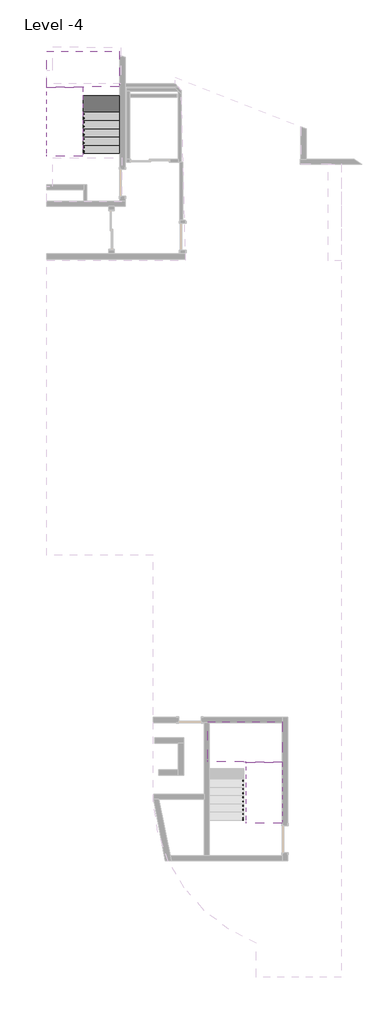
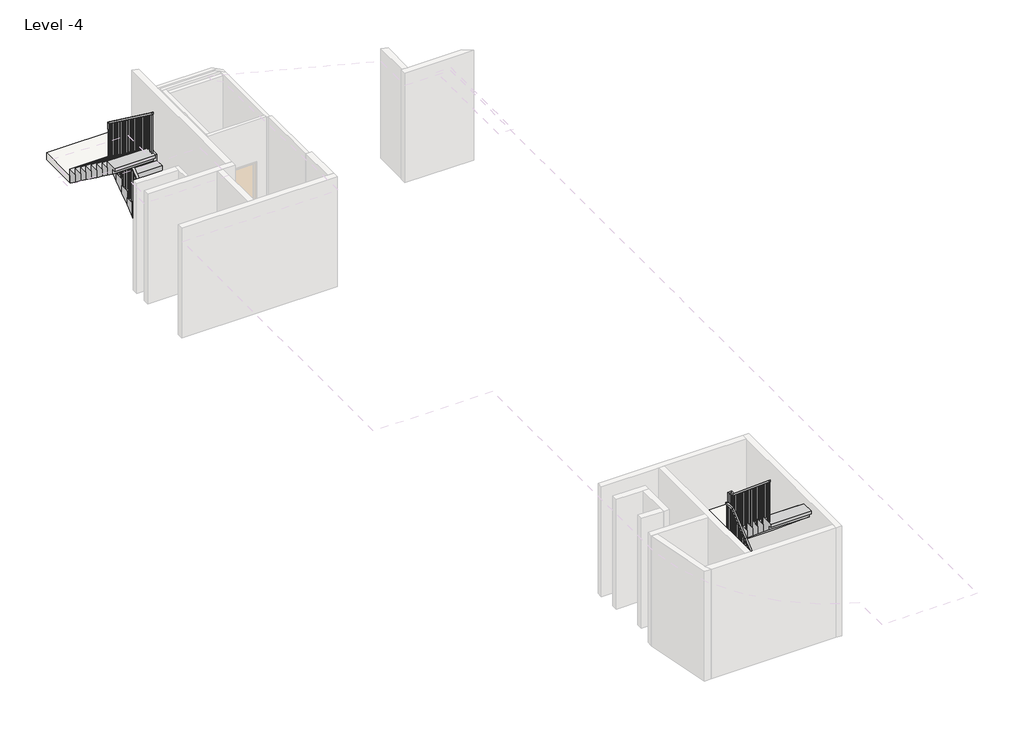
# One storey, part 2 of 2: 3 stair flights, 2 railings, 2 slabs.
"""IFC4 building model written with IfcOpenShell, lengths in millimetres."""

from ifc_helpers import new_model, si_unit, frame, origin, place, context, project, spatial, polyline, outline, extrude, faceted_brep, element, save

model = new_model("IFC4")

# Units and contexts
model_context = context("Model", 3, world=origin())
ifc_project = project(units=[si_unit("LENGTHUNIT", "METRE", prefix="MILLI")], contexts=[model_context])

# Site, building, storey
site = spatial("IfcSite", under=ifc_project)
building = spatial("IfcBuilding", under=site)
storey = spatial("IfcBuildingStorey", under=building, Name="Level -4", Elevation=-14000.0)

# Railings
placement = place(None, origin())
element("IfcRailing", 1, ObjectType="1100mm", at=placement, inside=storey, context=model_context, shape_type="SolidModel", body=[
    faceted_brep([(1179.9765888, 10328.8506586, -12694.1176471), (1179.9765888, 10328.8506586, -12756.1792584), (1229.9765888, 10328.8506586, -12756.1792584), (1229.9765888, 10328.8506586, -12694.1176471), (1179.9765888, 12288.8506586, -11252.9411765), (1179.9765888, 12305.25445, -11302.9411765), (1229.9765888, 12305.25445, -11302.9411765), (1229.9765888, 12288.8506586, -11252.9411765), (1179.9765888, 12569.2506586, -11252.9411765), (1179.9765888, 12569.2506586, -11302.9411765), (1229.9765888, 12619.2506586, -11302.9411765), (1229.9765888, 12619.2506586, -11252.9411765), (1159.5709975, 12569.2506586, -11252.9411765), (1159.5709975, 12619.2506586, -11252.9411765), (1109.5709975, 12619.2506586, -11302.9411765), (1109.5709975, 12569.2506586, -11302.9411765)], [[[0, 1, 2, 3]], [[1, 0, 4, 5]], [[2, 1, 5, 6]], [[3, 2, 6, 7]], [[0, 3, 7, 4]], [[5, 4, 8, 9]], [[6, 5, 9, 10]], [[7, 6, 10, 11]], [[4, 7, 11, 8]], [[12, 13, 14, 15]], [[9, 8, 12, 15]], [[10, 9, 15, 14]], [[11, 10, 14, 13]], [[8, 11, 13, 12]]]),
    faceted_brep([(1159.5709975, 12569.2506586, -11252.9411765), (1109.5709975, 12569.2506586, -11302.9411765), (1109.5709975, 12619.2506586, -11302.9411765), (1159.5709975, 12619.2506586, -11252.9411765), (1159.5709975, 12569.2506586, -11109.4145525), (1159.5709975, 12619.2506586, -11084.1176471), (1109.5709975, 12619.2506586, -11084.1176471), (1109.5709975, 12569.2506586, -11109.4145525)], [[[0, 1, 2, 3]], [[4, 5, 6, 7]], [[1, 0, 4, 7]], [[2, 1, 7, 6]], [[3, 2, 6, 5]], [[0, 3, 5, 4]]]),
    faceted_brep([(1159.5709975, 12619.2506586, -11084.1176471), (1159.5709975, 12569.2506586, -11109.4145525), (1109.5709975, 12569.2506586, -11109.4145525), (1109.5709975, 12619.2506586, -11084.1176471), (1159.5709975, 10328.8506586, -9400.0), (1109.5709975, 10328.8506586, -9400.0), (1109.5709975, 10328.8506586, -9462.0616113), (1159.5709975, 10328.8506586, -9462.0616113)], [[[0, 1, 2, 3]], [[4, 5, 6, 7]], [[1, 0, 4, 7]], [[2, 1, 7, 6]], [[3, 2, 6, 5]], [[0, 3, 5, 4]]]),
    extrude(outline(polyline([(10436.7506586, -10705.8823529), (10411.7506586, -10705.8823529), (10411.7506586, -9523.0174937), (10436.7506586, -9541.3998466), (10436.7506586, -10705.8823529)])), frame((1122.0709975, 0.0, 0.0), z_axis=(1.0, 0.0, 0.0), x_axis=(0.0, 1.0, 0.0)), (0.0, 0.0, 1.0), 25.0),
    extrude(outline(polyline([(10576.7506586, -10705.8823529), (10551.7506586, -10705.8823529), (10551.7506586, -9625.9586701), (10576.7506586, -9644.3410231), (10576.7506586, -10705.8823529)])), frame((1122.0709975, 0.0, 0.0), z_axis=(1.0, 0.0, 0.0), x_axis=(0.0, 1.0, 0.0)), (0.0, 0.0, 1.0), 25.0),
    extrude(outline(polyline([(10716.7506586, -10911.7647059), (10691.7506586, -10911.7647059), (10691.7506586, -9728.8998466), (10716.7506586, -9747.2821995), (10716.7506586, -10911.7647059)])), frame((1122.0709975, 0.0, 0.0), z_axis=(1.0, 0.0, 0.0), x_axis=(0.0, 1.0, 0.0)), (0.0, 0.0, 1.0), 25.0),
    extrude(outline(polyline([(10856.7506586, -10911.7647059), (10831.7506586, -10911.7647059), (10831.7506586, -9831.8410231), (10856.7506586, -9850.223376), (10856.7506586, -10911.7647059)])), frame((1122.0709975, 0.0, 0.0), z_axis=(1.0, 0.0, 0.0), x_axis=(0.0, 1.0, 0.0)), (0.0, 0.0, 1.0), 25.0),
    extrude(outline(polyline([(10996.7506586, -11117.6470588), (10971.7506586, -11117.6470588), (10971.7506586, -9934.7821995), (10996.7506586, -9953.1645525), (10996.7506586, -11117.6470588)])), frame((1122.0709975, 0.0, 0.0), z_axis=(1.0, 0.0, 0.0), x_axis=(0.0, 1.0, 0.0)), (0.0, 0.0, 1.0), 25.0),
    extrude(outline(polyline([(11136.7506586, -11117.6470588), (11111.7506586, -11117.6470588), (11111.7506586, -10037.723376), (11136.7506586, -10056.105729), (11136.7506586, -11117.6470588)])), frame((1122.0709975, 0.0, 0.0), z_axis=(1.0, 0.0, 0.0), x_axis=(0.0, 1.0, 0.0)), (0.0, 0.0, 1.0), 25.0),
    extrude(outline(polyline([(11276.7506586, -11323.5294118), (11251.7506586, -11323.5294118), (11251.7506586, -10140.6645525), (11276.7506586, -10159.0469054), (11276.7506586, -11323.5294118)])), frame((1122.0709975, 0.0, 0.0), z_axis=(1.0, 0.0, 0.0), x_axis=(0.0, 1.0, 0.0)), (0.0, 0.0, 1.0), 25.0),
    extrude(outline(polyline([(11416.7506586, -11323.5294118), (11391.7506586, -11323.5294118), (11391.7506586, -10243.605729), (11416.7506586, -10261.9880819), (11416.7506586, -11323.5294118)])), frame((1122.0709975, 0.0, 0.0), z_axis=(1.0, 0.0, 0.0), x_axis=(0.0, 1.0, 0.0)), (0.0, 0.0, 1.0), 25.0),
    extrude(outline(polyline([(11556.7506586, -11529.4117647), (11531.7506586, -11529.4117647), (11531.7506586, -10346.5469054), (11556.7506586, -10364.9292584), (11556.7506586, -11529.4117647)])), frame((1122.0709975, 0.0, 0.0), z_axis=(1.0, 0.0, 0.0), x_axis=(0.0, 1.0, 0.0)), (0.0, 0.0, 1.0), 25.0),
    extrude(outline(polyline([(11696.7506586, -11529.4117647), (11671.7506586, -11529.4117647), (11671.7506586, -10449.4880819), (11696.7506586, -10467.8704348), (11696.7506586, -11529.4117647)])), frame((1122.0709975, 0.0, 0.0), z_axis=(1.0, 0.0, 0.0), x_axis=(0.0, 1.0, 0.0)), (0.0, 0.0, 1.0), 25.0),
    extrude(outline(polyline([(11836.7506586, -11735.2941176), (11811.7506586, -11735.2941176), (11811.7506586, -10552.4292584), (11836.7506586, -10570.8116113), (11836.7506586, -11735.2941176)])), frame((1122.0709975, 0.0, 0.0), z_axis=(1.0, 0.0, 0.0), x_axis=(0.0, 1.0, 0.0)), (0.0, 0.0, 1.0), 25.0),
    extrude(outline(polyline([(11976.7506586, -11735.2941176), (11951.7506586, -11735.2941176), (11951.7506586, -10655.3704348), (11976.7506586, -10673.7527878), (11976.7506586, -11735.2941176)])), frame((1122.0709975, 0.0, 0.0), z_axis=(1.0, 0.0, 0.0), x_axis=(0.0, 1.0, 0.0)), (0.0, 0.0, 1.0), 25.0),
    extrude(outline(polyline([(12116.7506586, -11941.1764706), (12091.7506586, -11941.1764706), (12091.7506586, -10758.3116113), (12116.7506586, -10776.6939643), (12116.7506586, -11941.1764706)])), frame((1122.0709975, 0.0, 0.0), z_axis=(1.0, 0.0, 0.0), x_axis=(0.0, 1.0, 0.0)), (0.0, 0.0, 1.0), 25.0),
    extrude(outline(polyline([(12256.7506586, -11941.1764706), (12231.7506586, -11941.1764706), (12231.7506586, -10861.2527878), (12256.7506586, -10879.6351407), (12256.7506586, -11941.1764706)])), frame((1122.0709975, 0.0, 0.0), z_axis=(1.0, 0.0, 0.0), x_axis=(0.0, 1.0, 0.0)), (0.0, 0.0, 1.0), 25.0),
    extrude(outline(polyline([(12396.7506586, -12147.0588235), (12371.7506586, -12147.0588235), (12371.7506586, -10964.1939643), (12396.7506586, -10982.5763172), (12396.7506586, -12147.0588235)])), frame((1122.0709975, 0.0, 0.0), z_axis=(1.0, 0.0, 0.0), x_axis=(0.0, 1.0, 0.0)), (0.0, 0.0, 1.0), 25.0),
    extrude(outline(polyline([(12536.7506586, -12147.0588235), (12511.7506586, -12147.0588235), (12511.7506586, -11067.1351407), (12536.7506586, -11085.5174937), (12536.7506586, -12147.0588235)])), frame((1122.0709975, 0.0, 0.0), z_axis=(1.0, 0.0, 0.0), x_axis=(0.0, 1.0, 0.0)), (0.0, 0.0, 1.0), 25.0),
    extrude(outline(polyline([(1147.4765888, 12581.7506586), (1122.4765888, 12581.7506586), (1122.4765888, 12606.7506586), (1147.4765888, 12606.7506586), (1147.4765888, 12581.7506586)])), frame((0.0, 0.0, -12352.9411765), z_axis=(0.0, 0.0, 1.0), x_axis=(1.0, 0.0, 0.0)), (0.0, 0.0, 1.0), 1050.0),
    extrude(outline(polyline([(1192.4765888, 12486.3506586), (1192.4765888, 12511.3506586), (1217.4765888, 12511.3506586), (1217.4765888, 12486.3506586), (1192.4765888, 12486.3506586)])), frame((0.0, 0.0, -12352.9411765), z_axis=(0.0, 0.0, 1.0), x_axis=(1.0, 0.0, 0.0)), (0.0, 0.0, 1.0), 1050.0),
    extrude(outline(polyline([(1192.4765888, 12346.3506586), (1192.4765888, 12371.3506586), (1217.4765888, 12371.3506586), (1217.4765888, 12346.3506586), (1192.4765888, 12346.3506586)])), frame((0.0, 0.0, -12352.9411765), z_axis=(0.0, 0.0, 1.0), x_axis=(1.0, 0.0, 0.0)), (0.0, 0.0, 1.0), 1050.0),
    extrude(outline(polyline([(12206.3506586, -11375.6645525), (12231.3506586, -11357.2821995), (12231.3506586, -12558.8235294), (12206.3506586, -12558.8235294), (12206.3506586, -11375.6645525)])), frame((1192.4765888, 0.0, 0.0), z_axis=(1.0, 0.0, 0.0), x_axis=(0.0, 1.0, 0.0)), (0.0, 0.0, 1.0), 25.0),
    extrude(outline(polyline([(12066.3506586, -11478.605729), (12091.3506586, -11460.223376), (12091.3506586, -12558.8235294), (12066.3506586, -12558.8235294), (12066.3506586, -11478.605729)])), frame((1192.4765888, 0.0, 0.0), z_axis=(1.0, 0.0, 0.0), x_axis=(0.0, 1.0, 0.0)), (0.0, 0.0, 1.0), 25.0),
    extrude(outline(polyline([(11926.3506586, -11581.5469054), (11951.3506586, -11563.1645525), (11951.3506586, -12764.7058824), (11926.3506586, -12764.7058824), (11926.3506586, -11581.5469054)])), frame((1192.4765888, 0.0, 0.0), z_axis=(1.0, 0.0, 0.0), x_axis=(0.0, 1.0, 0.0)), (0.0, 0.0, 1.0), 25.0),
    extrude(outline(polyline([(11786.3506586, -11684.4880819), (11811.3506586, -11666.105729), (11811.3506586, -12764.7058824), (11786.3506586, -12764.7058824), (11786.3506586, -11684.4880819)])), frame((1192.4765888, 0.0, 0.0), z_axis=(1.0, 0.0, 0.0), x_axis=(0.0, 1.0, 0.0)), (0.0, 0.0, 1.0), 25.0),
    extrude(outline(polyline([(11646.3506586, -11787.4292584), (11671.3506586, -11769.0469054), (11671.3506586, -12970.5882353), (11646.3506586, -12970.5882353), (11646.3506586, -11787.4292584)])), frame((1192.4765888, 0.0, 0.0), z_axis=(1.0, 0.0, 0.0), x_axis=(0.0, 1.0, 0.0)), (0.0, 0.0, 1.0), 25.0),
    extrude(outline(polyline([(11506.3506586, -11890.3704348), (11531.3506586, -11871.9880819), (11531.3506586, -12970.5882353), (11506.3506586, -12970.5882353), (11506.3506586, -11890.3704348)])), frame((1192.4765888, 0.0, 0.0), z_axis=(1.0, 0.0, 0.0), x_axis=(0.0, 1.0, 0.0)), (0.0, 0.0, 1.0), 25.0),
    extrude(outline(polyline([(11366.3506586, -11993.3116113), (11391.3506586, -11974.9292584), (11391.3506586, -13176.4705882), (11366.3506586, -13176.4705882), (11366.3506586, -11993.3116113)])), frame((1192.4765888, 0.0, 0.0), z_axis=(1.0, 0.0, 0.0), x_axis=(0.0, 1.0, 0.0)), (0.0, 0.0, 1.0), 25.0),
    extrude(outline(polyline([(11226.3506586, -12096.2527878), (11251.3506586, -12077.8704348), (11251.3506586, -13176.4705882), (11226.3506586, -13176.4705882), (11226.3506586, -12096.2527878)])), frame((1192.4765888, 0.0, 0.0), z_axis=(1.0, 0.0, 0.0), x_axis=(0.0, 1.0, 0.0)), (0.0, 0.0, 1.0), 25.0),
    extrude(outline(polyline([(11086.3506586, -12199.1939643), (11111.3506586, -12180.8116113), (11111.3506586, -13382.3529412), (11086.3506586, -13382.3529412), (11086.3506586, -12199.1939643)])), frame((1192.4765888, 0.0, 0.0), z_axis=(1.0, 0.0, 0.0), x_axis=(0.0, 1.0, 0.0)), (0.0, 0.0, 1.0), 25.0),
    extrude(outline(polyline([(10946.3506586, -12302.1351407), (10971.3506586, -12283.7527878), (10971.3506586, -13382.3529412), (10946.3506586, -13382.3529412), (10946.3506586, -12302.1351407)])), frame((1192.4765888, 0.0, 0.0), z_axis=(1.0, 0.0, 0.0), x_axis=(0.0, 1.0, 0.0)), (0.0, 0.0, 1.0), 25.0),
    extrude(outline(polyline([(10806.3506586, -12405.0763172), (10831.3506586, -12386.6939643), (10831.3506586, -13588.2352941), (10806.3506586, -13588.2352941), (10806.3506586, -12405.0763172)])), frame((1192.4765888, 0.0, 0.0), z_axis=(1.0, 0.0, 0.0), x_axis=(0.0, 1.0, 0.0)), (0.0, 0.0, 1.0), 25.0),
    extrude(outline(polyline([(10666.3506586, -12508.0174937), (10691.3506586, -12489.6351407), (10691.3506586, -13588.2352941), (10666.3506586, -13588.2352941), (10666.3506586, -12508.0174937)])), frame((1192.4765888, 0.0, 0.0), z_axis=(1.0, 0.0, 0.0), x_axis=(0.0, 1.0, 0.0)), (0.0, 0.0, 1.0), 25.0),
    extrude(outline(polyline([(10526.3506586, -12610.9586701), (10551.3506586, -12592.5763172), (10551.3506586, -13794.1176471), (10526.3506586, -13794.1176471), (10526.3506586, -12610.9586701)])), frame((1192.4765888, 0.0, 0.0), z_axis=(1.0, 0.0, 0.0), x_axis=(0.0, 1.0, 0.0)), (0.0, 0.0, 1.0), 25.0),
    extrude(outline(polyline([(10386.3506586, -12713.8998466), (10411.3506586, -12695.5174937), (10411.3506586, -13794.1176471), (10386.3506586, -13794.1176471), (10386.3506586, -12713.8998466)])), frame((1192.4765888, 0.0, 0.0), z_axis=(1.0, 0.0, 0.0), x_axis=(0.0, 1.0, 0.0)), (0.0, 0.0, 1.0), 25.0),
    extrude(outline(polyline([(1147.0709975, 12606.7506586), (1147.0709975, 12581.7506586), (1122.0709975, 12581.7506586), (1122.0709975, 12606.7506586), (1147.0709975, 12606.7506586)])), frame((0.0, 0.0, -12352.9411765), z_axis=(0.0, 0.0, 1.0), x_axis=(1.0, 0.0, 0.0)), (0.0, 0.0, 1.0), 1050.0),
    extrude(outline(polyline([(1192.4765888, 12581.7506586), (1192.4765888, 12606.7506586), (1217.4765888, 12606.7506586), (1217.4765888, 12581.7506586), (1192.4765888, 12581.7506586)])), frame((0.0, 0.0, -12352.9411765), z_axis=(0.0, 0.0, 1.0), x_axis=(1.0, 0.0, 0.0)), (0.0, 0.0, 1.0), 1050.0),
    extrude(outline(polyline([(12276.3506586, -11324.1939643), (12301.3506586, -11305.8116113), (12301.3506586, -12352.9411765), (12276.3506586, -12352.9411765), (12276.3506586, -11324.1939643)])), frame((1192.4765888, 0.0, 0.0), z_axis=(1.0, 0.0, 0.0), x_axis=(0.0, 1.0, 0.0)), (0.0, 0.0, 1.0), 25.0),
    extrude(outline(polyline([(10353.8506586, -10705.8823529), (10328.8506586, -10705.8823529), (10328.8506586, -9462.0616113), (10353.8506586, -9480.4439643), (10353.8506586, -10705.8823529)])), frame((1122.0709975, 0.0, 0.0), z_axis=(1.0, 0.0, 0.0), x_axis=(0.0, 1.0, 0.0)), (0.0, 0.0, 1.0), 25.0),
    extrude(outline(polyline([(10328.8506586, -12756.1792584), (10353.8506586, -12737.7969054), (10353.8506586, -13794.1176471), (10328.8506586, -13794.1176471), (10328.8506586, -12756.1792584)])), frame((1192.4765888, 0.0, 0.0), z_axis=(1.0, 0.0, 0.0), x_axis=(0.0, 1.0, 0.0)), (0.0, 0.0, 1.0), 25.0),
])
element("IfcRailing", 2, ObjectType="1100mm", at=placement, inside=storey, context=model_context, shape_type="SolidModel", body=[
    faceted_brep([(6559.5709976, -12235.6929429, -12666.6666667), (6559.5709976, -12235.6929429, -12731.7520806), (6609.5709976, -12235.6929429, -12731.7520806), (6609.5709976, -12235.6929429, -12666.6666667), (6559.5709976, -10555.6929429, -11266.6666667), (6559.5709976, -10537.5904462, -11316.6666667), (6609.5709976, -10537.5904462, -11316.6666667), (6609.5709976, -10555.6929429, -11266.6666667), (6559.5709976, -10225.2929429, -11266.6666667), (6559.5709976, -10225.2929429, -11316.6666667), (6609.5709976, -10275.2929429, -11316.6666667), (6609.5709976, -10275.2929429, -11266.6666667), (6615.3709976, -10225.2929429, -11266.6666667), (6665.3709976, -10225.2929429, -11316.6666667), (6665.3709976, -10275.2929429, -11316.6666667), (6615.3709976, -10275.2929429, -11266.6666667), (6615.3709976, -10225.2929429, -10971.1666667), (6665.3709976, -10225.2929429, -11021.1666667), (6665.3709976, -10275.2929429, -11021.1666667), (6615.3709976, -10275.2929429, -10971.1666667), (6740.3709976, -10225.2929429, -10971.1666667), (6740.3709976, -10225.2929429, -11021.1666667), (6690.3709976, -10275.2929429, -11021.1666667), (6690.3709976, -10275.2929429, -10971.1666667), (6740.3709976, -10350.2929429, -10971.1666667), (6740.3709976, -10368.3954397, -11021.1666667), (6690.3709976, -10368.3954397, -11021.1666667), (6690.3709976, -10350.2929429, -10971.1666667), (6740.3709976, -12235.6929429, -9400.0), (6690.3709976, -12235.6929429, -9400.0), (6690.3709976, -12235.6929429, -9465.085414), (6740.3709976, -12235.6929429, -9465.085414)], [[[0, 1, 2, 3]], [[1, 0, 4, 5]], [[2, 1, 5, 6]], [[3, 2, 6, 7]], [[0, 3, 7, 4]], [[5, 4, 8, 9]], [[6, 5, 9, 10]], [[7, 6, 10, 11]], [[4, 7, 11, 8]], [[9, 8, 12, 13]], [[10, 9, 13, 14]], [[11, 10, 14, 15]], [[8, 11, 15, 12]], [[13, 12, 16, 17]], [[14, 13, 17, 18]], [[15, 14, 18, 19]], [[12, 15, 19, 16]], [[17, 16, 20, 21]], [[18, 17, 21, 22]], [[19, 18, 22, 23]], [[16, 19, 23, 20]], [[21, 20, 24, 25]], [[22, 21, 25, 26]], [[23, 22, 26, 27]], [[20, 23, 27, 24]], [[28, 29, 30, 31]], [[25, 24, 28, 31]], [[26, 25, 31, 30]], [[27, 26, 30, 29]], [[24, 27, 29, 28]]]),
    extrude(outline(polyline([(-12127.7929429, -9555.0020806), (-12127.7929429, -10733.3333333), (-12152.7929429, -10733.3333333), (-12152.7929429, -9534.1687473), (-12127.7929429, -9555.0020806)])), frame((6702.8709976, 0.0, 0.0), z_axis=(1.0, 0.0, 0.0), x_axis=(0.0, 1.0, 0.0)), (0.0, 0.0, 1.0), 25.0),
    extrude(outline(polyline([(-11987.7929429, -9671.6687473), (-11987.7929429, -10733.3333333), (-12012.7929429, -10733.3333333), (-12012.7929429, -9650.835414), (-11987.7929429, -9671.6687473)])), frame((6702.8709976, 0.0, 0.0), z_axis=(1.0, 0.0, 0.0), x_axis=(0.0, 1.0, 0.0)), (0.0, 0.0, 1.0), 25.0),
    extrude(outline(polyline([(-11847.7929429, -9788.335414), (-11847.7929429, -10966.6666667), (-11872.7929429, -10966.6666667), (-11872.7929429, -9767.5020806), (-11847.7929429, -9788.335414)])), frame((6702.8709976, 0.0, 0.0), z_axis=(1.0, 0.0, 0.0), x_axis=(0.0, 1.0, 0.0)), (0.0, 0.0, 1.0), 25.0),
    extrude(outline(polyline([(-11707.7929429, -9905.0020806), (-11707.7929429, -10966.6666667), (-11732.7929429, -10966.6666667), (-11732.7929429, -9884.1687473), (-11707.7929429, -9905.0020806)])), frame((6702.8709976, 0.0, 0.0), z_axis=(1.0, 0.0, 0.0), x_axis=(0.0, 1.0, 0.0)), (0.0, 0.0, 1.0), 25.0),
    extrude(outline(polyline([(-11567.7929429, -10021.6687473), (-11567.7929429, -11200.0), (-11592.7929429, -11200.0), (-11592.7929429, -10000.835414), (-11567.7929429, -10021.6687473)])), frame((6702.8709976, 0.0, 0.0), z_axis=(1.0, 0.0, 0.0), x_axis=(0.0, 1.0, 0.0)), (0.0, 0.0, 1.0), 25.0),
    extrude(outline(polyline([(-11427.7929429, -10138.335414), (-11427.7929429, -11200.0), (-11452.7929429, -11200.0), (-11452.7929429, -10117.5020806), (-11427.7929429, -10138.335414)])), frame((6702.8709976, 0.0, 0.0), z_axis=(1.0, 0.0, 0.0), x_axis=(0.0, 1.0, 0.0)), (0.0, 0.0, 1.0), 25.0),
    extrude(outline(polyline([(-11287.7929429, -10255.0020806), (-11287.7929429, -11433.3333333), (-11312.7929429, -11433.3333333), (-11312.7929429, -10234.1687473), (-11287.7929429, -10255.0020806)])), frame((6702.8709976, 0.0, 0.0), z_axis=(1.0, 0.0, 0.0), x_axis=(0.0, 1.0, 0.0)), (0.0, 0.0, 1.0), 25.0),
    extrude(outline(polyline([(-11147.7929429, -10371.6687473), (-11147.7929429, -11433.3333333), (-11172.7929429, -11433.3333333), (-11172.7929429, -10350.835414), (-11147.7929429, -10371.6687473)])), frame((6702.8709976, 0.0, 0.0), z_axis=(1.0, 0.0, 0.0), x_axis=(0.0, 1.0, 0.0)), (0.0, 0.0, 1.0), 25.0),
    extrude(outline(polyline([(-11007.7929429, -10488.335414), (-11007.7929429, -11666.6666667), (-11032.7929429, -11666.6666667), (-11032.7929429, -10467.5020806), (-11007.7929429, -10488.335414)])), frame((6702.8709976, 0.0, 0.0), z_axis=(1.0, 0.0, 0.0), x_axis=(0.0, 1.0, 0.0)), (0.0, 0.0, 1.0), 25.0),
    extrude(outline(polyline([(-10867.7929429, -10605.0020806), (-10867.7929429, -11666.6666667), (-10892.7929429, -11666.6666667), (-10892.7929429, -10584.1687473), (-10867.7929429, -10605.0020806)])), frame((6702.8709976, 0.0, 0.0), z_axis=(1.0, 0.0, 0.0), x_axis=(0.0, 1.0, 0.0)), (0.0, 0.0, 1.0), 25.0),
    extrude(outline(polyline([(-10727.7929429, -10721.6687473), (-10727.7929429, -11900.0), (-10752.7929429, -11900.0), (-10752.7929429, -10700.835414), (-10727.7929429, -10721.6687473)])), frame((6702.8709976, 0.0, 0.0), z_axis=(1.0, 0.0, 0.0), x_axis=(0.0, 1.0, 0.0)), (0.0, 0.0, 1.0), 25.0),
    extrude(outline(polyline([(-10587.7929429, -10838.335414), (-10587.7929429, -11900.0), (-10612.7929429, -11900.0), (-10612.7929429, -10817.5020806), (-10587.7929429, -10838.335414)])), frame((6702.8709976, 0.0, 0.0), z_axis=(1.0, 0.0, 0.0), x_axis=(0.0, 1.0, 0.0)), (0.0, 0.0, 1.0), 25.0),
    extrude(outline(polyline([(-10447.7929429, -10955.0020806), (-10447.7929429, -12133.3333333), (-10472.7929429, -12133.3333333), (-10472.7929429, -10934.1687473), (-10447.7929429, -10955.0020806)])), frame((6702.8709976, 0.0, 0.0), z_axis=(1.0, 0.0, 0.0), x_axis=(0.0, 1.0, 0.0)), (0.0, 0.0, 1.0), 25.0),
    extrude(outline(polyline([(6702.8709976, -10307.7929429), (6727.8709976, -10307.7929429), (6727.8709976, -10332.7929429), (6702.8709976, -10332.7929429), (6702.8709976, -10307.7929429)])), frame((0.0, 0.0, -12133.3333333), z_axis=(0.0, 0.0, 1.0), x_axis=(1.0, 0.0, 0.0)), (0.0, 0.0, 1.0), 1112.1666667),
    extrude(outline(polyline([(6642.0709976, -10262.7929429), (6642.0709976, -10237.7929429), (6667.0709976, -10237.7929429), (6667.0709976, -10262.7929429), (6642.0709976, -10262.7929429)])), frame((0.0, 0.0, -12366.6666667), z_axis=(0.0, 0.0, 1.0), x_axis=(1.0, 0.0, 0.0)), (0.0, 0.0, 1.0), 1050.0),
    extrude(outline(polyline([(6597.0709976, -10358.1929429), (6572.0709976, -10358.1929429), (6572.0709976, -10333.1929429), (6597.0709976, -10333.1929429), (6597.0709976, -10358.1929429)])), frame((0.0, 0.0, -12366.6666667), z_axis=(0.0, 0.0, 1.0), x_axis=(1.0, 0.0, 0.0)), (0.0, 0.0, 1.0), 1050.0),
    extrude(outline(polyline([(6597.0709976, -10498.1929429), (6572.0709976, -10498.1929429), (6572.0709976, -10473.1929429), (6597.0709976, -10473.1929429), (6597.0709976, -10498.1929429)])), frame((0.0, 0.0, -12366.6666667), z_axis=(0.0, 0.0, 1.0), x_axis=(1.0, 0.0, 0.0)), (0.0, 0.0, 1.0), 1050.0),
    extrude(outline(polyline([(-10638.1929429, -12600.0), (-10638.1929429, -11400.5020806), (-10613.1929429, -11379.6687473), (-10613.1929429, -12600.0), (-10638.1929429, -12600.0)])), frame((6572.0709976, 0.0, 0.0), z_axis=(1.0, 0.0, 0.0), x_axis=(0.0, 1.0, 0.0)), (0.0, 0.0, 1.0), 25.0),
    extrude(outline(polyline([(-10778.1929429, -12600.0), (-10778.1929429, -11517.1687473), (-10753.1929429, -11496.335414), (-10753.1929429, -12600.0), (-10778.1929429, -12600.0)])), frame((6572.0709976, 0.0, 0.0), z_axis=(1.0, 0.0, 0.0), x_axis=(0.0, 1.0, 0.0)), (0.0, 0.0, 1.0), 25.0),
    extrude(outline(polyline([(-10918.1929429, -12833.3333333), (-10918.1929429, -11633.835414), (-10893.1929429, -11613.0020806), (-10893.1929429, -12833.3333333), (-10918.1929429, -12833.3333333)])), frame((6572.0709976, 0.0, 0.0), z_axis=(1.0, 0.0, 0.0), x_axis=(0.0, 1.0, 0.0)), (0.0, 0.0, 1.0), 25.0),
    extrude(outline(polyline([(-11058.1929429, -12833.3333333), (-11058.1929429, -11750.5020806), (-11033.1929429, -11729.6687473), (-11033.1929429, -12833.3333333), (-11058.1929429, -12833.3333333)])), frame((6572.0709976, 0.0, 0.0), z_axis=(1.0, 0.0, 0.0), x_axis=(0.0, 1.0, 0.0)), (0.0, 0.0, 1.0), 25.0),
    extrude(outline(polyline([(-11198.1929429, -13066.6666667), (-11198.1929429, -11867.1687473), (-11173.1929429, -11846.335414), (-11173.1929429, -13066.6666667), (-11198.1929429, -13066.6666667)])), frame((6572.0709976, 0.0, 0.0), z_axis=(1.0, 0.0, 0.0), x_axis=(0.0, 1.0, 0.0)), (0.0, 0.0, 1.0), 25.0),
    extrude(outline(polyline([(-11338.1929429, -13066.6666667), (-11338.1929429, -11983.835414), (-11313.1929429, -11963.0020806), (-11313.1929429, -13066.6666667), (-11338.1929429, -13066.6666667)])), frame((6572.0709976, 0.0, 0.0), z_axis=(1.0, 0.0, 0.0), x_axis=(0.0, 1.0, 0.0)), (0.0, 0.0, 1.0), 25.0),
    extrude(outline(polyline([(-11478.1929429, -13300.0), (-11478.1929429, -12100.5020806), (-11453.1929429, -12079.6687473), (-11453.1929429, -13300.0), (-11478.1929429, -13300.0)])), frame((6572.0709976, 0.0, 0.0), z_axis=(1.0, 0.0, 0.0), x_axis=(0.0, 1.0, 0.0)), (0.0, 0.0, 1.0), 25.0),
    extrude(outline(polyline([(-11618.1929429, -13300.0), (-11618.1929429, -12217.1687473), (-11593.1929429, -12196.335414), (-11593.1929429, -13300.0), (-11618.1929429, -13300.0)])), frame((6572.0709976, 0.0, 0.0), z_axis=(1.0, 0.0, 0.0), x_axis=(0.0, 1.0, 0.0)), (0.0, 0.0, 1.0), 25.0),
    extrude(outline(polyline([(-11758.1929429, -13533.3333333), (-11758.1929429, -12333.835414), (-11733.1929429, -12313.0020806), (-11733.1929429, -13533.3333333), (-11758.1929429, -13533.3333333)])), frame((6572.0709976, 0.0, 0.0), z_axis=(1.0, 0.0, 0.0), x_axis=(0.0, 1.0, 0.0)), (0.0, 0.0, 1.0), 25.0),
    extrude(outline(polyline([(-11898.1929429, -13533.3333333), (-11898.1929429, -12450.5020806), (-11873.1929429, -12429.6687473), (-11873.1929429, -13533.3333333), (-11898.1929429, -13533.3333333)])), frame((6572.0709976, 0.0, 0.0), z_axis=(1.0, 0.0, 0.0), x_axis=(0.0, 1.0, 0.0)), (0.0, 0.0, 1.0), 25.0),
    extrude(outline(polyline([(-12038.1929429, -13766.6666667), (-12038.1929429, -12567.1687473), (-12013.1929429, -12546.335414), (-12013.1929429, -13766.6666667), (-12038.1929429, -13766.6666667)])), frame((6572.0709976, 0.0, 0.0), z_axis=(1.0, 0.0, 0.0), x_axis=(0.0, 1.0, 0.0)), (0.0, 0.0, 1.0), 25.0),
    extrude(outline(polyline([(-12178.1929429, -13766.6666667), (-12178.1929429, -12683.835414), (-12153.1929429, -12663.0020806), (-12153.1929429, -13766.6666667), (-12178.1929429, -13766.6666667)])), frame((6572.0709976, 0.0, 0.0), z_axis=(1.0, 0.0, 0.0), x_axis=(0.0, 1.0, 0.0)), (0.0, 0.0, 1.0), 25.0),
    extrude(outline(polyline([(6702.8709976, -10237.7929429), (6727.8709976, -10237.7929429), (6727.8709976, -10262.7929429), (6702.8709976, -10262.7929429), (6702.8709976, -10237.7929429)])), frame((0.0, 0.0, -12366.6666667), z_axis=(0.0, 0.0, 1.0), x_axis=(1.0, 0.0, 0.0)), (0.0, 0.0, 1.0), 1345.5),
    extrude(outline(polyline([(6597.0709976, -10262.7929429), (6572.0709976, -10262.7929429), (6572.0709976, -10237.7929429), (6597.0709976, -10237.7929429), (6597.0709976, -10262.7929429)])), frame((0.0, 0.0, -12366.6666667), z_axis=(0.0, 0.0, 1.0), x_axis=(1.0, 0.0, 0.0)), (0.0, 0.0, 1.0), 1050.0),
    extrude(outline(polyline([(-10568.1929429, -12366.6666667), (-10568.1929429, -11342.1687473), (-10543.1929429, -11321.335414), (-10543.1929429, -12366.6666667), (-10568.1929429, -12366.6666667)])), frame((6572.0709976, 0.0, 0.0), z_axis=(1.0, 0.0, 0.0), x_axis=(0.0, 1.0, 0.0)), (0.0, 0.0, 1.0), 25.0),
    extrude(outline(polyline([(-12210.6929429, -9485.9187473), (-12210.6929429, -10733.3333333), (-12235.6929429, -10733.3333333), (-12235.6929429, -9465.085414), (-12210.6929429, -9485.9187473)])), frame((6702.8709976, 0.0, 0.0), z_axis=(1.0, 0.0, 0.0), x_axis=(0.0, 1.0, 0.0)), (0.0, 0.0, 1.0), 25.0),
    extrude(outline(polyline([(-12235.6929429, -13766.6666667), (-12235.6929429, -12731.7520806), (-12210.6929429, -12710.9187473), (-12210.6929429, -13766.6666667), (-12235.6929429, -13766.6666667)])), frame((6572.0709976, 0.0, 0.0), z_axis=(1.0, 0.0, 0.0), x_axis=(0.0, 1.0, 0.0)), (0.0, 0.0, 1.0), 25.0),
])

# Slabs
element("IfcSlab", 3, ObjectType="220mm Thickness", at=placement, inside=storey, context=model_context, shape_type="Brep", body=[
    faceted_brep([(2399.5765888, 13788.8506586, -12352.9411765), (-60.0290025, 13788.8506586, -12352.9411765), (-60.0290025, 12568.8506586, -12352.9411765), (1159.9709975, 12568.8506586, -12352.9411765), (1177.9890888, 12568.8506586, -12352.9411765), (1177.9890888, 12678.8506586, -12352.9411765), (2399.5765888, 12678.8506586, -12352.9411765), (2399.5765888, 13788.8506586, -12572.9411765), (2399.5765888, 12678.8506586, -12462.9411765), (2399.5765888, 12578.8506586, -12462.9411765), (2399.5765888, 12578.8506586, -12572.9411765), (-60.0290025, 13788.8506586, -12572.9411765), (-60.0290025, 12568.8506586, -12572.9411765), (1159.9709975, 12568.8506586, -12572.9411765), (1177.9890888, 12568.8506586, -12572.9411765), (1177.9890888, 12578.8506586, -12572.9411765), (1177.9890888, 12678.8506586, -12462.9411765), (1177.9890888, 12578.8506586, -12462.9411765)], [[[0, 1, 2, 3, 4, 5, 6]], [[7, 0, 6, 8, 9, 10]], [[1, 0, 7, 11]], [[2, 1, 11, 12]], [[3, 2, 12, 13]], [[3, 13, 14, 4]], [[11, 7, 10, 15, 14, 13, 12]], [[16, 17, 9, 8]], [[5, 16, 8, 6]], [[16, 5, 4, 14, 15, 17]], [[9, 17, 15, 10]]]),
])
element("IfcSlab", 4, ObjectType="220mm Thickness", at=placement, inside=storey, context=model_context, shape_type="Brep", body=[
    faceted_brep([(6689.9709976, -10275.6929429, -12366.6666667), (7909.9709976, -10275.6929429, -12366.6666667), (7909.9709976, -8910.0372616, -12366.6666667), (5389.9709976, -8910.0372616, -12366.6666667), (5389.9709976, -10165.6929429, -12366.6666667), (6611.5584976, -10165.6929429, -12366.6666667), (6611.5584976, -10275.6929429, -12366.6666667), (6689.9709976, -10275.6929429, -12586.6666667), (6611.5584976, -10275.6929429, -12586.6666667), (7909.9709976, -10275.6929429, -12586.6666667), (7909.9709976, -8910.0372616, -12586.6666667), (5389.9709976, -8910.0372616, -12586.6666667), (5389.9709976, -10265.6929429, -12586.6666667), (5389.9709976, -10265.6929429, -12476.6666667), (5389.9709976, -10165.6929429, -12476.6666667), (6611.5584976, -10265.6929429, -12586.6666667), (6611.5584976, -10265.6929429, -12476.6666667), (6611.5584976, -10165.6929429, -12476.6666667)], [[[0, 1, 2, 3, 4, 5, 6]], [[7, 0, 6, 8]], [[1, 0, 7, 9]], [[2, 1, 9, 10]], [[3, 2, 10, 11]], [[3, 11, 12, 13, 14, 4]], [[9, 7, 8, 15, 12, 11, 10]], [[16, 17, 14, 13]], [[5, 17, 16, 15, 8, 6]], [[17, 5, 4, 14]], [[16, 13, 12, 15]]]),
])

# Stair flights
element("IfcStairFlight", 5, ObjectType="190mm Depth", at=placement, inside=storey, context=model_context, shape_type="Brep", body=[
    faceted_brep([(1179.5765888, 10608.8506586, -13794.1176471), (1179.5765888, 10328.8506586, -13794.1176471), (2399.5765888, 10328.8506586, -13794.1176471), (2399.5765888, 10608.8506586, -13794.1176471), (1179.5765888, 10608.8506586, -14000.0), (1179.5765888, 10328.8506586, -14000.0), (2399.5765888, 10328.8506586, -14000.0), (2399.5765888, 10608.8506586, -14000.0), (1179.5765888, 10888.8506586, -13588.2352941), (1179.5765888, 10608.8506586, -13588.2352941), (2399.5765888, 10608.8506586, -13588.2352941), (2399.5765888, 10888.8506586, -13588.2352941), (1179.5765888, 10888.8506586, -13824.0694171), (1179.5765888, 10649.5850659, -14000.0), (2399.5765888, 10649.5850659, -14000.0), (2399.5765888, 10888.8506586, -13824.0694171), (1179.5765888, 11168.8506586, -13382.3529412), (1179.5765888, 10888.8506586, -13382.3529412), (2399.5765888, 10888.8506586, -13382.3529412), (2399.5765888, 11168.8506586, -13382.3529412), (1179.5765888, 11168.8506586, -13618.1870642), (2399.5765888, 11168.8506586, -13618.1870642), (1179.5765888, 11448.8506586, -13176.4705882), (1179.5765888, 11168.8506586, -13176.4705882), (2399.5765888, 11168.8506586, -13176.4705882), (2399.5765888, 11448.8506586, -13176.4705882), (1179.5765888, 11448.8506586, -13412.3047112), (2399.5765888, 11448.8506586, -13412.3047112), (1179.5765888, 11728.8506586, -12970.5882353), (1179.5765888, 11448.8506586, -12970.5882353), (2399.5765888, 11448.8506586, -12970.5882353), (2399.5765888, 11728.8506586, -12970.5882353), (1179.5765888, 11728.8506586, -13206.4223583), (2399.5765888, 11728.8506586, -13206.4223583), (1179.5765888, 12008.8506586, -12764.7058824), (1179.5765888, 11728.8506586, -12764.7058824), (2399.5765888, 11728.8506586, -12764.7058824), (2399.5765888, 12008.8506586, -12764.7058824), (1179.5765888, 12008.8506586, -13000.5400053), (2399.5765888, 12008.8506586, -13000.5400053), (1179.5765888, 12288.8506586, -12558.8235294), (1179.5765888, 12008.8506586, -12558.8235294), (2399.5765888, 12008.8506586, -12558.8235294), (2399.5765888, 12288.8506586, -12558.8235294), (1179.5765888, 12288.8506586, -12794.6576524), (2399.5765888, 12288.8506586, -12794.6576524), (1179.5765888, 12288.8506586, -12352.9411765), (2399.5765888, 12288.8506586, -12352.9411765), (2399.5765888, 12668.8506586, -12352.9411765), (1179.5765888, 12668.8506586, -12352.9411765), (1179.5765888, 12668.8506586, -12452.9411765), (1179.5765888, 12568.8506586, -12452.9411765), (1179.5765888, 12568.8506586, -12588.7752995), (2399.5765888, 12568.8506586, -12588.7752995), (2399.5765888, 12568.8506586, -12452.9411765), (2399.5765888, 12668.8506586, -12452.9411765)], [[[0, 1, 2, 3]], [[1, 0, 4, 5]], [[2, 1, 5, 6]], [[3, 2, 6, 7]], [[8, 9, 10, 11]], [[4, 0, 9, 8, 12, 13]], [[0, 3, 10, 9]], [[3, 7, 14, 15, 11, 10]], [[16, 17, 18, 19]], [[17, 16, 20, 12, 8]], [[8, 11, 18, 17]], [[19, 18, 11, 15, 21]], [[22, 23, 24, 25]], [[23, 22, 26, 20, 16]], [[16, 19, 24, 23]], [[25, 24, 19, 21, 27]], [[28, 29, 30, 31]], [[29, 28, 32, 26, 22]], [[22, 25, 30, 29]], [[31, 30, 25, 27, 33]], [[34, 35, 36, 37]], [[35, 34, 38, 32, 28]], [[28, 31, 36, 35]], [[37, 36, 31, 33, 39]], [[40, 41, 42, 43]], [[41, 40, 44, 38, 34]], [[34, 37, 42, 41]], [[43, 42, 37, 39, 45]], [[46, 47, 48, 49]], [[46, 49, 50, 51, 52, 44, 40]], [[40, 43, 47, 46]], [[48, 47, 43, 45, 53, 54, 55]], [[52, 51, 54, 53]], [[5, 4, 13, 14, 7, 6]], [[14, 13, 12, 20, 26, 32, 38, 44, 52, 53, 45, 39, 33, 27, 21, 15]], [[55, 54, 51, 50]], [[55, 50, 49, 48]]]),
])
element("IfcStairFlight", 6, ObjectType="190mm Depth", at=placement, inside=storey, context=model_context, shape_type="Brep", body=[
    faceted_brep([(1159.9709975, 12568.8506586, -12147.0588235), (-60.0290025, 12568.8506586, -12147.0588235), (-60.0290025, 12547.3162514, -12147.0588235), (-60.0290025, 12288.8506586, -12147.0588235), (1159.9709975, 12288.8506586, -12147.0588235), (1159.9709975, 12547.3162514, -12147.0588235), (1159.9709975, 12288.8506586, -12382.8929465), (1159.9709975, 12547.3162514, -12572.9411765), (1159.9709975, 12568.8506586, -12572.9411765), (-60.0290025, 12568.8506586, -12572.9411765), (-60.0290025, 12547.3162514, -12572.9411765), (-60.0290025, 12288.8506586, -12382.8929465), (1159.9709975, 12008.8506586, -11941.1764706), (1159.9709975, 12288.8506586, -11941.1764706), (-60.0290025, 12288.8506586, -11941.1764706), (-60.0290025, 12008.8506586, -11941.1764706), (1159.9709975, 12008.8506586, -12177.0105936), (-60.0290025, 12008.8506586, -12177.0105936), (1159.9709975, 11728.8506586, -11735.2941176), (1159.9709975, 12008.8506586, -11735.2941176), (-60.0290025, 12008.8506586, -11735.2941176), (-60.0290025, 11728.8506586, -11735.2941176), (1159.9709975, 11728.8506586, -11971.1282406), (-60.0290025, 11728.8506586, -11971.1282406), (1159.9709975, 11448.8506586, -11529.4117647), (1159.9709975, 11728.8506586, -11529.4117647), (-60.0290025, 11728.8506586, -11529.4117647), (-60.0290025, 11448.8506586, -11529.4117647), (1159.9709975, 11448.8506586, -11765.2458877), (-60.0290025, 11448.8506586, -11765.2458877), (1159.9709975, 11168.8506586, -11323.5294118), (1159.9709975, 11448.8506586, -11323.5294118), (-60.0290025, 11448.8506586, -11323.5294118), (-60.0290025, 11168.8506586, -11323.5294118), (1159.9709975, 11168.8506586, -11559.3635347), (-60.0290025, 11168.8506586, -11559.3635347), (1159.9709975, 10888.8506586, -11117.6470588), (1159.9709975, 11168.8506586, -11117.6470588), (-60.0290025, 11168.8506586, -11117.6470588), (-60.0290025, 10888.8506586, -11117.6470588), (1159.9709975, 10888.8506586, -11353.4811818), (-60.0290025, 10888.8506586, -11353.4811818), (1159.9709975, 10608.8506586, -10911.7647059), (1159.9709975, 10888.8506586, -10911.7647059), (-60.0290025, 10888.8506586, -10911.7647059), (-60.0290025, 10608.8506586, -10911.7647059), (1159.9709975, 10608.8506586, -11147.5988289), (-60.0290025, 10608.8506586, -11147.5988289), (1159.9709975, 10608.8506586, -10705.8823529), (-60.0290025, 10608.8506586, -10705.8823529), (-60.0290025, 10228.8506586, -10705.8823529), (1159.9709975, 10228.8506586, -10705.8823529), (1159.9709975, 10228.8506586, -10805.8823529), (1159.9709975, 10328.8506586, -10805.8823529), (1159.9709975, 10328.8506586, -10941.7164759), (-60.0290025, 10328.8506586, -10941.7164759), (-60.0290025, 10328.8506586, -10805.8823529), (-60.0290025, 10228.8506586, -10805.8823529)], [[[0, 1, 2, 3, 4, 5]], [[4, 6, 7, 8, 0, 5]], [[1, 0, 8, 9]], [[1, 9, 10, 11, 3, 2]], [[12, 13, 14, 15]], [[13, 12, 16, 6, 4]], [[14, 13, 4, 3]], [[15, 14, 3, 11, 17]], [[18, 19, 20, 21]], [[19, 18, 22, 16, 12]], [[20, 19, 12, 15]], [[21, 20, 15, 17, 23]], [[24, 25, 26, 27]], [[25, 24, 28, 22, 18]], [[26, 25, 18, 21]], [[27, 26, 21, 23, 29]], [[30, 31, 32, 33]], [[31, 30, 34, 28, 24]], [[32, 31, 24, 27]], [[33, 32, 27, 29, 35]], [[36, 37, 38, 39]], [[37, 36, 40, 34, 30]], [[38, 37, 30, 33]], [[39, 38, 33, 35, 41]], [[42, 43, 44, 45]], [[43, 42, 46, 40, 36]], [[44, 43, 36, 39]], [[45, 44, 39, 41, 47]], [[48, 49, 50, 51]], [[48, 51, 52, 53, 54, 46, 42]], [[49, 48, 42, 45]], [[50, 49, 45, 47, 55, 56, 57]], [[55, 54, 53, 56]], [[10, 7, 6, 16, 22, 28, 34, 40, 46, 54, 55, 47, 41, 35, 29, 23, 17, 11]], [[7, 10, 9, 8]], [[57, 56, 53, 52]], [[57, 52, 51, 50]]]),
])
element("IfcStairFlight", 7, ObjectType="190mm Depth", at=placement, inside=storey, context=model_context, shape_type="Brep", body=[
    faceted_brep([(7909.9709976, -10275.6929429, -12133.3333333), (6689.9709976, -10275.6929429, -12133.3333333), (6689.9709976, -10308.4824306, -12133.3333333), (6689.9709976, -10555.6929429, -12133.3333333), (7909.9709976, -10555.6929429, -12133.3333333), (7909.9709976, -10308.4824306, -12133.3333333), (7909.9709976, -10555.6929429, -12380.6579064), (7909.9709976, -10308.4824306, -12586.6666667), (7909.9709976, -10275.6929429, -12586.6666667), (6689.9709976, -10275.6929429, -12586.6666667), (6689.9709976, -10308.4824306, -12586.6666667), (6689.9709976, -10555.6929429, -12380.6579064), (7909.9709976, -10835.6929429, -11900.0), (7909.9709976, -10555.6929429, -11900.0), (6689.9709976, -10555.6929429, -11900.0), (6689.9709976, -10835.6929429, -11900.0), (7909.9709976, -10835.6929429, -12147.3245731), (6689.9709976, -10835.6929429, -12147.3245731), (7909.9709976, -11115.6929429, -11666.6666667), (7909.9709976, -10835.6929429, -11666.6666667), (6689.9709976, -10835.6929429, -11666.6666667), (6689.9709976, -11115.6929429, -11666.6666667), (7909.9709976, -11115.6929429, -11913.9912397), (6689.9709976, -11115.6929429, -11913.9912397), (7909.9709976, -11395.6929429, -11433.3333333), (7909.9709976, -11115.6929429, -11433.3333333), (6689.9709976, -11115.6929429, -11433.3333333), (6689.9709976, -11395.6929429, -11433.3333333), (7909.9709976, -11395.6929429, -11680.6579064), (6689.9709976, -11395.6929429, -11680.6579064), (7909.9709976, -11675.6929429, -11200.0), (7909.9709976, -11395.6929429, -11200.0), (6689.9709976, -11395.6929429, -11200.0), (6689.9709976, -11675.6929429, -11200.0), (7909.9709976, -11675.6929429, -11447.3245731), (6689.9709976, -11675.6929429, -11447.3245731), (7909.9709976, -11955.6929429, -10966.6666667), (7909.9709976, -11675.6929429, -10966.6666667), (6689.9709976, -11675.6929429, -10966.6666667), (6689.9709976, -11955.6929429, -10966.6666667), (7909.9709976, -11955.6929429, -11213.9912397), (6689.9709976, -11955.6929429, -11213.9912397), (7909.9709976, -11955.6929429, -10733.3333333), (6689.9709976, -11955.6929429, -10733.3333333), (6689.9709976, -12335.6929429, -10733.3333333), (7909.9709976, -12335.6929429, -10733.3333333), (7909.9709976, -12335.6929429, -10833.3333333), (7909.9709976, -12235.6929429, -10833.3333333), (7909.9709976, -12235.6929429, -10980.6579064), (6689.9709976, -12235.6929429, -10980.6579064), (6689.9709976, -12235.6929429, -10833.3333333), (6689.9709976, -12335.6929429, -10833.3333333)], [[[0, 1, 2, 3, 4, 5]], [[4, 6, 7, 8, 0, 5]], [[1, 0, 8, 9]], [[1, 9, 10, 11, 3, 2]], [[12, 13, 14, 15]], [[13, 12, 16, 6, 4]], [[14, 13, 4, 3]], [[15, 14, 3, 11, 17]], [[18, 19, 20, 21]], [[19, 18, 22, 16, 12]], [[20, 19, 12, 15]], [[21, 20, 15, 17, 23]], [[24, 25, 26, 27]], [[25, 24, 28, 22, 18]], [[26, 25, 18, 21]], [[27, 26, 21, 23, 29]], [[30, 31, 32, 33]], [[31, 30, 34, 28, 24]], [[32, 31, 24, 27]], [[33, 32, 27, 29, 35]], [[36, 37, 38, 39]], [[37, 36, 40, 34, 30]], [[38, 37, 30, 33]], [[39, 38, 33, 35, 41]], [[42, 43, 44, 45]], [[42, 45, 46, 47, 48, 40, 36]], [[43, 42, 36, 39]], [[44, 43, 39, 41, 49, 50, 51]], [[49, 48, 47, 50]], [[10, 7, 6, 16, 22, 28, 34, 40, 48, 49, 41, 35, 29, 23, 17, 11]], [[7, 10, 9, 8]], [[51, 50, 47, 46]], [[51, 46, 45, 44]]]),
])

save(model, "model.ifc")
